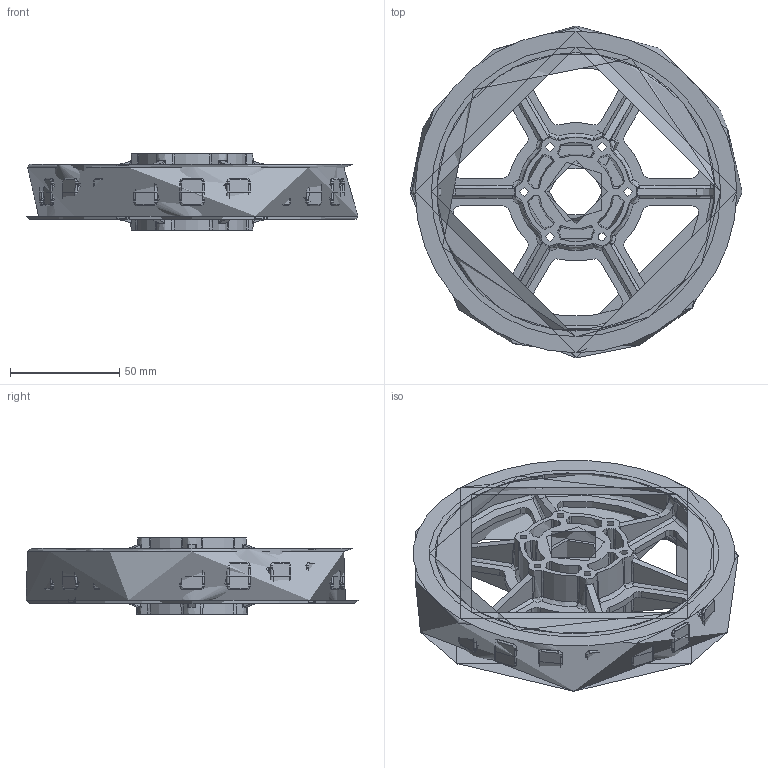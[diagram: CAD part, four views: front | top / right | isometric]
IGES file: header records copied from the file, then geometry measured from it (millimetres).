
Global section: file name: No Iges File Name specified; native system: AutoDesk Inventor R6.0; preprocessor: AutoDesk Inventor Iges Exporter R6.0; author: No Author specified; organization: No Organization specified; date: 20080105.184420; units: inch
Bounding box: 152.29 x 152.29 x 34.92 mm (x, y, z)
Topology: 0 solids, 0 shells, 2950 faces, 16775 edges, 16616 vertices
Faces by surface type: revolution 1302, bspline 1184, plane 464
